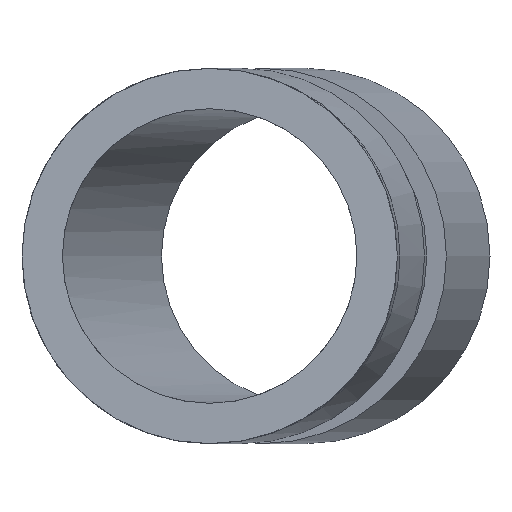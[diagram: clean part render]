
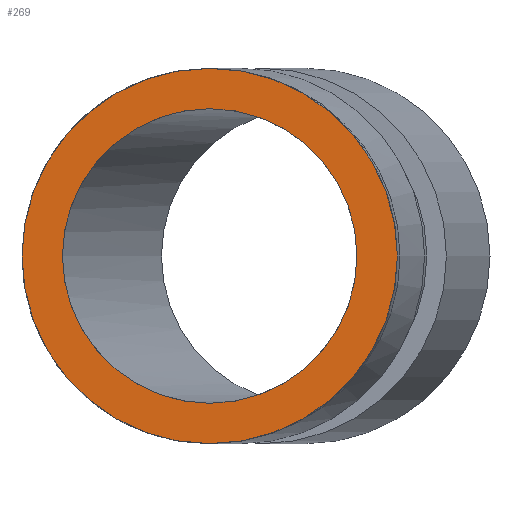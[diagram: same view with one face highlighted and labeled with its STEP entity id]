
A CAD part, front view. The second image highlights one B-rep face of the part: STEP entity #269.
In plain terms, the highlighted planar face has unit normal (0, -1, 0).
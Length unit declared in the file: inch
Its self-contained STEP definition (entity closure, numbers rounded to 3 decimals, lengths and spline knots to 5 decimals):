
#19=FACE_BOUND('',#103,.T.);
#25=PLANE('',#328);
#56=CIRCLE('',#325,0.412);
#57=CIRCLE('',#327,0.525);
#81=FACE_OUTER_BOUND('',#102,.T.);
#102=EDGE_LOOP('',(#233));
#103=EDGE_LOOP('',(#234));
#134=VERTEX_POINT('',#560);
#135=VERTEX_POINT('',#564);
#165=EDGE_CURVE('',#134,#134,#56,.T.);
#168=EDGE_CURVE('',#135,#135,#57,.T.);
#233=ORIENTED_EDGE('',*,*,#168,.T.);
#234=ORIENTED_EDGE('',*,*,#165,.T.);
#269=ADVANCED_FACE('',(#81,#19),#25,.F.);
#325=AXIS2_PLACEMENT_3D('',#561,#407,#408);
#327=AXIS2_PLACEMENT_3D('',#566,#413,#414);
#328=AXIS2_PLACEMENT_3D('',#567,#415,#416);
#407=DIRECTION('center_axis',(0.,1.,0.));
#408=DIRECTION('ref_axis',(1.,0.,0.));
#413=DIRECTION('center_axis',(0.,-1.,0.));
#414=DIRECTION('ref_axis',(1.,0.,0.));
#415=DIRECTION('center_axis',(0.,1.,0.));
#416=DIRECTION('ref_axis',(0.,0.,1.));
#560=CARTESIAN_POINT('',(-0.412,0.,0.));
#561=CARTESIAN_POINT('Origin',(0.,0.,0.));
#564=CARTESIAN_POINT('',(-0.525,0.,0.));
#566=CARTESIAN_POINT('Origin',(0.,0.,0.));
#567=CARTESIAN_POINT('Origin',(0.,0.,0.));
